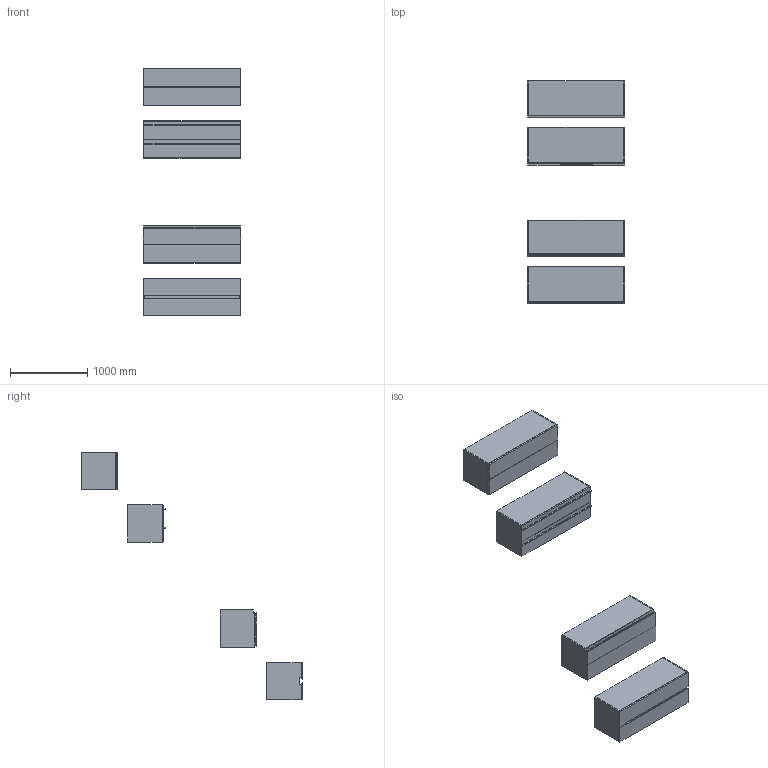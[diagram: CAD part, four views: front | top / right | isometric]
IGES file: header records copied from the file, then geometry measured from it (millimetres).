
Start section: Data from Parasolid IGES Translator 19.0.9, Copyright(c) 2006 Siemens PL M Software. All Rights Reserved.
Global section: file name: noorth-SI-H 48 D 47 W 126_8501.igs; native system: By Siemens PLM Incorporated; preprocessor: XPlus GENERIC/IGES 19.0.9; author: Noname; organization: Noname; date: 20200601.110816; units: metre
Bounding box: 1262.66 x 2869.1 x 3200.01 mm (x, y, z)
Volume: 147876614.5 mm3; surface area: 23016251.2 mm2
Topology: 33 solids, 33 shells, 318 faces, 700 edges, 428 vertices
Faces by surface type: plane 230, extrusion 36, bspline 32, cylinder 20
